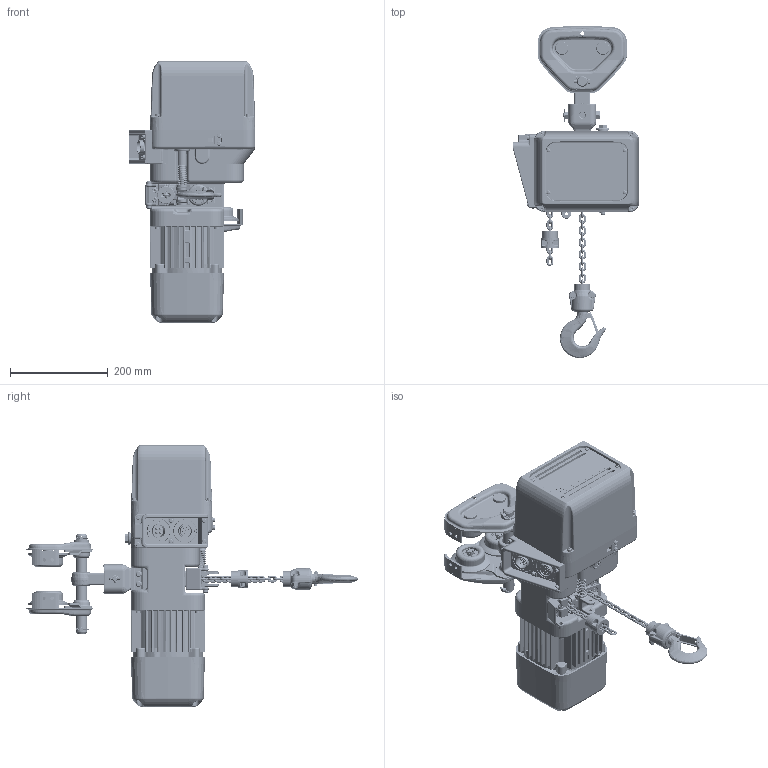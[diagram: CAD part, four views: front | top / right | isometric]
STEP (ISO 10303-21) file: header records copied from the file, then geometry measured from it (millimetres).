
FILE_DESCRIPTION (( 'STEP AP214' ), '1' );
FILE_NAME ('NER2P001HD.STEP', '2026-08-11T14:53:22', ( '' ), ( '' ), 'SwSTEP 2.0', 'SolidWorks 2026', '' );
FILE_SCHEMA (( 'AUTOMOTIVE_DESIGN' ));
Length unit declared in the file: inch
Products named in the file (73): T6G5102005; 6202Z Bearing; ER1BS9135; T6G800005P; ER2BHM03I9A51; ER2BI9103; ER2CS9511; ER2CS2523; ER2BI2104; LCER2003NP; ER2BS9332; ES1045003; 9679708_9679708; ER2CS9186; T7PA0055112; ER1BS9535; ER2BS9337; NER2P001HD; ER2BS9105; L3183008_CASTLENUT_J1NL001-10100; ES127005S; ER2BS9101; M6F554010; T7PA0059142; LCER2003NP (SHAPED); ER2BS9331; E3S111003; T7PA0059141; J1BY9-0602525_B18.2.3.1M - Hex cap screw, M6 x 1.0 x 25 --25C; 9009413_9009413; 9009414-5_9009414-5; T6PA0059113; 9091251_9091251; T7G115005; E3S112003; ER2CS9121; 9091233_9091233; ER2BHM01H9A6; 9091252_B18.3.1M - 6 x 1.0 x 30 Hex SHCS -- 30CHX; ER2CS9123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
Assembly tree (158 placements, depth 5):
  NER2P001HD
    PTS2005_3.332" FLANGE (S6X12.5)
      T7PA0055112  x2
        T6PA0059112
        T6PA0059103
        T6PA0059113
        T7PA0059141
        T7PA0059142
      T7G115005
      T6G5102005  x4
        T6PA0059102
        6202Z Bearing
      9009413_9009413  x4
      T7G117005
      T6G156005  x2
      split pin (metric) as  x2
      T6G800005P
      T3P154020_T3P154020  x4
    NER2001HD_FOR MANUAL PUSH TROLLEY
      ER2BS9101
      ER2BS9105
      ER2BS9107
      9091234_B18.3.1M - 5 x 0.8 x 45 Hex SHCS -- 22CHX  x4
      9091252_B18.3.1M - 6 x 1.0 x 30 Hex SHCS -- 30CHX  x4
      E3S111003  x2
      E3S112003  x2
      ER2CS9121  x2
      ER2CS9186
      ER2CS9123
      Socket Head Cap Screw_AM_B18.3.1M - 6 x 1.0 x 12 Hex SHCS -- 12CHX
      ER2BS9331
      ER2BS9338
      ER2BS9337
      ER2CS9357
      ER2BH1011
        ER2BH9011
        ER2BH2015
          ER2BH9015  x2
          J1BY9-0602525_B18.2.3.1M - Hex cap screw, M6 x 1.0 x 25 --25C  x2
          J1WS011-20060_Rectangular section spring washer BS 4464 - 16 (Type B)  x2
          J1NA001-20060_B18.2.4.1M - Hex nut, Style 1,  M6 x 1 --D-C  x2
        ER2CS1002
      LCER2003NP
        LCER2003NP  x18
      ER2BS9053  x2
      9091251_9091251  x4
      9012711_9012711  x4
      ER2CS9511
      ER2CS2523
      ER2CS2564
      LCER2003NP (SHAPED)
        LCER2003NP  x14
      ES1045003
      ER1BS9135
      ES558003  x8
      MS561010  x6
      ES127005S
      ER1BS9535
      M6F554010  x2
      ER2BHM01H9A6
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Bounding box: 260 x 679.66 x 534.5 mm (x, y, z)
Volume: 11904146.9 mm3; surface area: 1393461.7 mm2
Topology: 169 solids, 185 shells, 8624 faces, 22449 edges, 14358 vertices
Faces by surface type: plane 3567, cylinder 2714, torus 1029, cone 641, bspline 611, sphere 62
Entity records: 198453 total; most frequent: CARTESIAN_POINT 64332, ORIENTED_EDGE 27312, DIRECTION 26568, EDGE_CURVE 13658, AXIS2_PLACEMENT_3D 10210, VERTEX_POINT 8844, VECTOR 6148, LINE 6148
